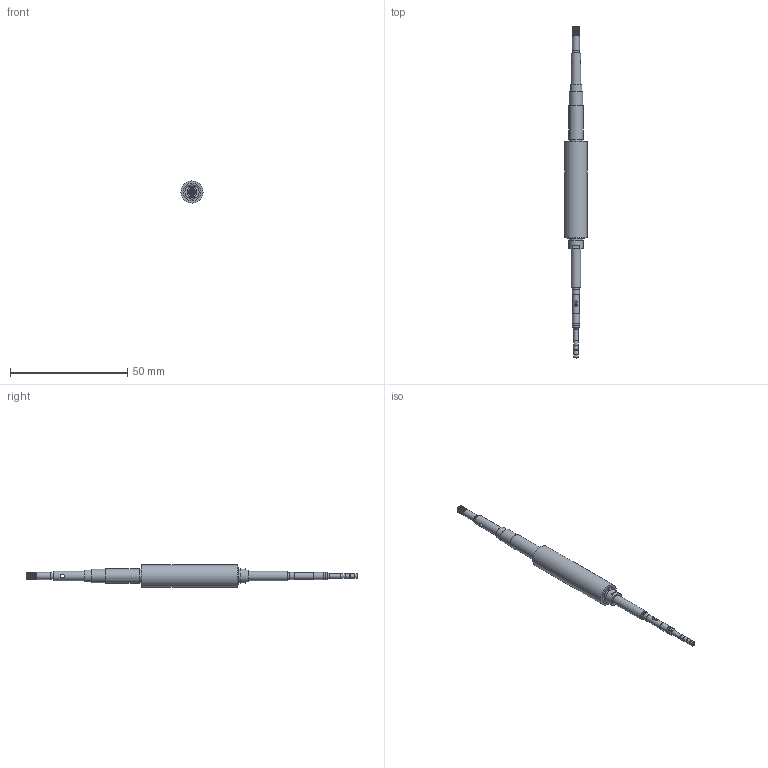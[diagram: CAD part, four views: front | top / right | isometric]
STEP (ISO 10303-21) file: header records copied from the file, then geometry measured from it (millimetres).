
FILE_DESCRIPTION(/* description */ (''),/* implementation_level */ '2;1');
FILE_NAME(/* name */ 'CR06-01 4mm4槽花键组件.stp',/* time_stamp */ '2025-02-28T15:07:11+08:00',/* author */ (''),/* organization */ (''),/* preprocessor_version */ 'ST-DEVELOPER v16.7',/* originating_system */ 'SIEMENS PLM Software NX 12.0',/* authorisation */ '');
FILE_SCHEMA (('AUTOMOTIVE_DESIGN { 1 0 10303 214 3 1 1 1 }'));
Length unit declared in the file: millimetre
Products named in the file (1): 4mm4槽花键组件_无内部细节_
_stp
Bounding box: 9.5 x 141.4 x 9.5 mm (x, y, z)
Volume: 4218 mm3; surface area: 3561.5 mm2
Topology: 1 solids, 1 shells, 88 faces, 175 edges, 117 vertices
Faces by surface type: cylinder 45, plane 38, cone 3, bspline 2
Full cylindrical faces by diameter (mm): 1 x3, 1.7 x1, 1.8 x4, 2 x5, 2.8 x4, 2.85 x1, 3 x12, 4 x2, 4.2 x2, 5 x1, 5.8 x3, 6 x2, 7.5 x2, 9.5 x1
Entity records: 4499 total; most frequent: CARTESIAN_POINT 3032, DIRECTION 320, ORIENTED_EDGE 196, EDGE_LOOP 156, AXIS2_PLACEMENT_3D 155, FACE_BOUND 146, EDGE_CURVE 98, VERTEX_POINT 90
